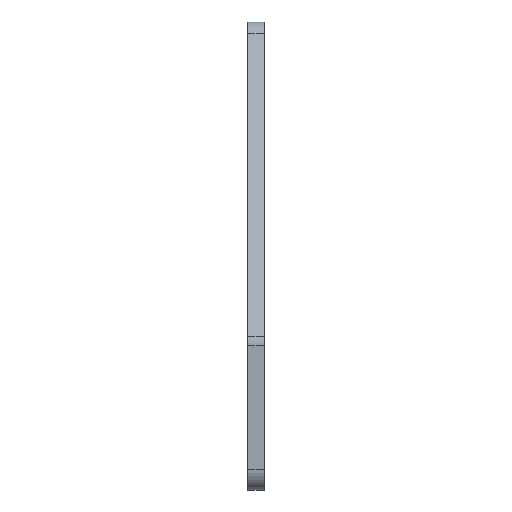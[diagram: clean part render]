
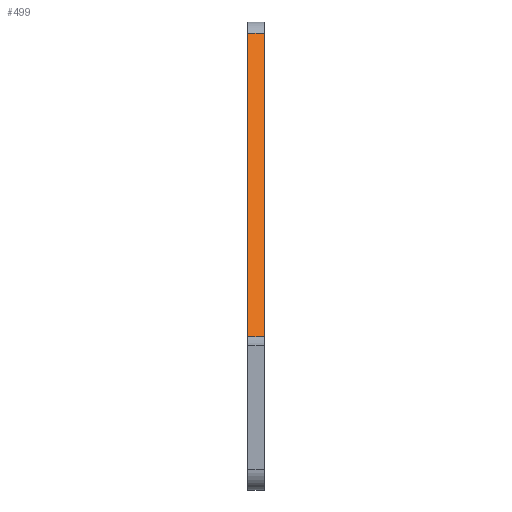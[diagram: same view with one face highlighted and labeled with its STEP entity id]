
A CAD part, left-side view. The second image highlights one B-rep face of the part: STEP entity #499.
In plain terms, the highlighted planar face has unit normal (-0.894, 0, 0.447).
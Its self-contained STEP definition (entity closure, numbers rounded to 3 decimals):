
#34 = DIRECTION ( 'NONE',  ( 0., -1., 0. ) ) ;
#65 = EDGE_LOOP ( 'NONE', ( #1084, #733, #823, #337 ) ) ;
#148 = VECTOR ( 'NONE', #34, 1000. ) ;
#179 = DIRECTION ( 'NONE',  ( -0.447, 0., -0.894 ) ) ;
#203 = CARTESIAN_POINT ( 'NONE',  ( -47.562, 33.629, 79.762 ) ) ;
#222 = EDGE_CURVE ( 'NONE', #505, #396, #647, .T. ) ;
#227 = CARTESIAN_POINT ( 'NONE',  ( -28.399, 31.629, 118.089 ) ) ;
#281 = CARTESIAN_POINT ( 'NONE',  ( -29.09, 31.629, 116.707 ) ) ;
#302 = EDGE_CURVE ( 'NONE', #1026, #396, #722, .T. ) ;
#310 = DIRECTION ( 'NONE',  ( -0.447, 0., -0.894 ) ) ;
#337 = ORIENTED_EDGE ( 'NONE', *, *, #852, .F. ) ;
#385 = VECTOR ( 'NONE', #179, 1000. ) ;
#396 = VERTEX_POINT ( 'NONE', #203 ) ;
#433 = VECTOR ( 'NONE', #537, 1000. ) ;
#444 = DIRECTION ( 'NONE',  ( 0., 1., 0. ) ) ;
#449 = VECTOR ( 'NONE', #444, 1000. ) ;
#499 = ADVANCED_FACE ( 'NONE', ( #592 ), #832, .T. ) ;
#505 = VERTEX_POINT ( 'NONE', #571 ) ;
#537 = DIRECTION ( 'NONE',  ( -0.447, 0., -0.894 ) ) ;
#559 = CARTESIAN_POINT ( 'NONE',  ( -29.09, 31.629, 116.707 ) ) ;
#560 = LINE ( 'NONE', #695, #385 ) ;
#571 = CARTESIAN_POINT ( 'NONE',  ( -47.562, 31.629, 79.762 ) ) ;
#592 = FACE_OUTER_BOUND ( 'NONE', #65, .T. ) ;
#616 = CARTESIAN_POINT ( 'NONE',  ( -28.399, 33.629, 118.089 ) ) ;
#647 = LINE ( 'NONE', #957, #449 ) ;
#695 = CARTESIAN_POINT ( 'NONE',  ( -28.399, 31.629, 118.089 ) ) ;
#722 = LINE ( 'NONE', #616, #433 ) ;
#733 = ORIENTED_EDGE ( 'NONE', *, *, #222, .F. ) ;
#758 = EDGE_CURVE ( 'NONE', #1074, #505, #560, .T. ) ;
#823 = ORIENTED_EDGE ( 'NONE', *, *, #758, .F. ) ;
#832 = PLANE ( 'NONE',  #1006 ) ;
#852 = EDGE_CURVE ( 'NONE', #1026, #1074, #902, .T. ) ;
#902 = LINE ( 'NONE', #281, #148 ) ;
#957 = CARTESIAN_POINT ( 'NONE',  ( -47.562, 31.629, 79.762 ) ) ;
#1006 = AXIS2_PLACEMENT_3D ( 'NONE', #227, #1087, #310 ) ;
#1026 = VERTEX_POINT ( 'NONE', #1072 ) ;
#1072 = CARTESIAN_POINT ( 'NONE',  ( -29.09, 33.629, 116.707 ) ) ;
#1074 = VERTEX_POINT ( 'NONE', #559 ) ;
#1084 = ORIENTED_EDGE ( 'NONE', *, *, #302, .T. ) ;
#1087 = DIRECTION ( 'NONE',  ( -0.894, 0., 0.447 ) ) ;
